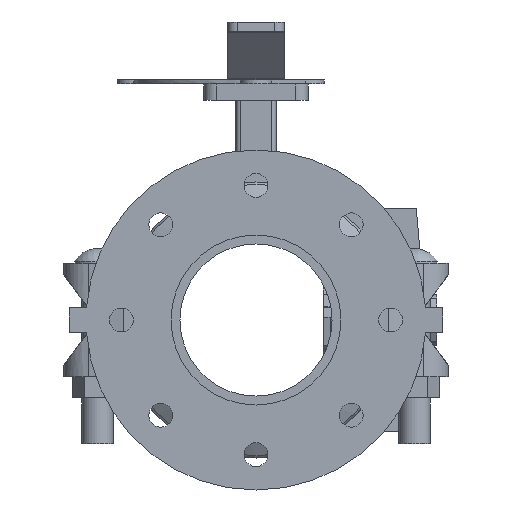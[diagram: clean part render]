
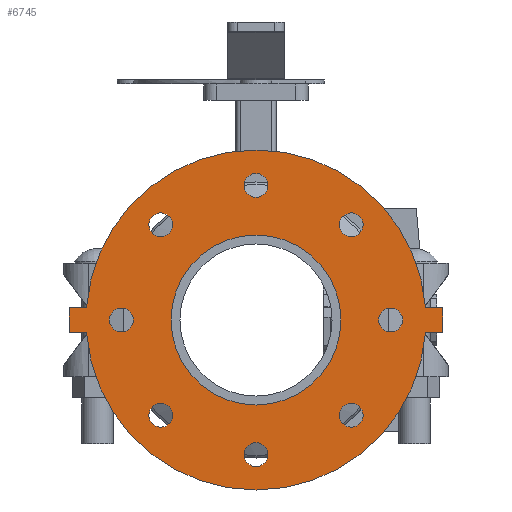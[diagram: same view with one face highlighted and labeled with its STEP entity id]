
A CAD part, front view. The second image highlights one B-rep face of the part: STEP entity #6745.
In plain terms, the highlighted planar face has unit normal (0, -1, 0) as drawn and (0, 0, -1) by its records, which use the part's own axes.
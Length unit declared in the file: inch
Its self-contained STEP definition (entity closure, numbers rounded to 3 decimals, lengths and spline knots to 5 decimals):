
#159=FACE_BOUND('',#837,.T.);
#160=FACE_BOUND('',#838,.T.);
#161=FACE_BOUND('',#839,.T.);
#162=FACE_BOUND('',#840,.T.);
#163=FACE_BOUND('',#841,.T.);
#164=FACE_BOUND('',#842,.T.);
#165=FACE_BOUND('',#843,.T.);
#166=FACE_BOUND('',#844,.T.);
#167=FACE_BOUND('',#845,.T.);
#245=PLANE('',#7311);
#464=FACE_OUTER_BOUND('',#836,.T.);
#836=EDGE_LOOP('',(#4382,#4383,#4384,#4385,#4386,#4387,#4388,#4389));
#837=EDGE_LOOP('',(#4390));
#838=EDGE_LOOP('',(#4391));
#839=EDGE_LOOP('',(#4392));
#840=EDGE_LOOP('',(#4393));
#841=EDGE_LOOP('',(#4394));
#842=EDGE_LOOP('',(#4395));
#843=EDGE_LOOP('',(#4396));
#844=EDGE_LOOP('',(#4397));
#845=EDGE_LOOP('',(#4398));
#1273=LINE('',#10231,#1792);
#1276=LINE('',#10237,#1795);
#1279=LINE('',#10242,#1798);
#1281=LINE('',#10247,#1800);
#1285=LINE('',#10254,#1804);
#1287=LINE('',#10257,#1806);
#1792=VECTOR('',#8143,0.3937);
#1795=VECTOR('',#8148,0.3937);
#1798=VECTOR('',#8153,0.3937);
#1800=VECTOR('',#8157,0.3937);
#1804=VECTOR('',#8163,0.3937);
#1806=VECTOR('',#8167,0.3937);
#2299=CIRCLE('',#7273,0.315);
#2301=CIRCLE('',#7276,0.315);
#2303=CIRCLE('',#7279,0.315);
#2305=CIRCLE('',#7282,0.315);
#2307=CIRCLE('',#7285,0.315);
#2309=CIRCLE('',#7288,0.315);
#2311=CIRCLE('',#7291,0.315);
#2313=CIRCLE('',#7294,0.315);
#2314=CIRCLE('',#7296,2.25);
#2316=CIRCLE('',#7299,4.5);
#2319=CIRCLE('',#7303,4.5);
#2687=VERTEX_POINT('',#10160);
#2689=VERTEX_POINT('',#10166);
#2691=VERTEX_POINT('',#10172);
#2693=VERTEX_POINT('',#10178);
#2695=VERTEX_POINT('',#10184);
#2697=VERTEX_POINT('',#10190);
#2699=VERTEX_POINT('',#10196);
#2701=VERTEX_POINT('',#10202);
#2702=VERTEX_POINT('',#10206);
#2704=VERTEX_POINT('',#10212);
#2706=VERTEX_POINT('',#10215);
#2708=VERTEX_POINT('',#10221);
#2711=VERTEX_POINT('',#10226);
#2712=VERTEX_POINT('',#10230);
#2714=VERTEX_POINT('',#10236);
#2716=VERTEX_POINT('',#10245);
#2717=VERTEX_POINT('',#10246);
#3336=EDGE_CURVE('',#2687,#2687,#2299,.T.);
#3339=EDGE_CURVE('',#2689,#2689,#2301,.T.);
#3342=EDGE_CURVE('',#2691,#2691,#2303,.T.);
#3345=EDGE_CURVE('',#2693,#2693,#2305,.T.);
#3348=EDGE_CURVE('',#2695,#2695,#2307,.T.);
#3351=EDGE_CURVE('',#2697,#2697,#2309,.T.);
#3354=EDGE_CURVE('',#2699,#2699,#2311,.T.);
#3357=EDGE_CURVE('',#2701,#2701,#2313,.T.);
#3358=EDGE_CURVE('',#2702,#2702,#2314,.T.);
#3362=EDGE_CURVE('',#2704,#2706,#2316,.T.);
#3368=EDGE_CURVE('',#2711,#2708,#2319,.T.);
#3369=EDGE_CURVE('',#2706,#2712,#1273,.T.);
#3372=EDGE_CURVE('',#2714,#2711,#1276,.T.);
#3375=EDGE_CURVE('',#2712,#2714,#1279,.T.);
#3377=EDGE_CURVE('',#2716,#2717,#1281,.T.);
#3381=EDGE_CURVE('',#2708,#2716,#1285,.T.);
#3383=EDGE_CURVE('',#2717,#2704,#1287,.T.);
#4382=ORIENTED_EDGE('',*,*,#3383,.F.);
#4383=ORIENTED_EDGE('',*,*,#3377,.F.);
#4384=ORIENTED_EDGE('',*,*,#3381,.F.);
#4385=ORIENTED_EDGE('',*,*,#3368,.F.);
#4386=ORIENTED_EDGE('',*,*,#3372,.F.);
#4387=ORIENTED_EDGE('',*,*,#3375,.F.);
#4388=ORIENTED_EDGE('',*,*,#3369,.F.);
#4389=ORIENTED_EDGE('',*,*,#3362,.F.);
#4390=ORIENTED_EDGE('',*,*,#3336,.T.);
#4391=ORIENTED_EDGE('',*,*,#3339,.T.);
#4392=ORIENTED_EDGE('',*,*,#3342,.T.);
#4393=ORIENTED_EDGE('',*,*,#3345,.T.);
#4394=ORIENTED_EDGE('',*,*,#3348,.T.);
#4395=ORIENTED_EDGE('',*,*,#3351,.T.);
#4396=ORIENTED_EDGE('',*,*,#3354,.T.);
#4397=ORIENTED_EDGE('',*,*,#3357,.T.);
#4398=ORIENTED_EDGE('',*,*,#3358,.T.);
#6745=ADVANCED_FACE('',(#464,#159,#160,#161,#162,#163,#164,#165,#166,#167),
#245,.F.);
#7273=AXIS2_PLACEMENT_3D('',#10162,#8067,#8068);
#7276=AXIS2_PLACEMENT_3D('',#10168,#8074,#8075);
#7279=AXIS2_PLACEMENT_3D('',#10174,#8081,#8082);
#7282=AXIS2_PLACEMENT_3D('',#10180,#8088,#8089);
#7285=AXIS2_PLACEMENT_3D('',#10186,#8095,#8096);
#7288=AXIS2_PLACEMENT_3D('',#10192,#8102,#8103);
#7291=AXIS2_PLACEMENT_3D('',#10198,#8109,#8110);
#7294=AXIS2_PLACEMENT_3D('',#10204,#8116,#8117);
#7296=AXIS2_PLACEMENT_3D('',#10207,#8120,#8121);
#7299=AXIS2_PLACEMENT_3D('',#10216,#8128,#8129);
#7303=AXIS2_PLACEMENT_3D('',#10228,#8139,#8140);
#7311=AXIS2_PLACEMENT_3D('',#10260,#8171,#8172);
#8067=DIRECTION('center_axis',(0.,0.,1.));
#8068=DIRECTION('ref_axis',(-0.707,-0.707,0.));
#8074=DIRECTION('center_axis',(0.,0.,1.));
#8075=DIRECTION('ref_axis',(-1.,0.,0.));
#8081=DIRECTION('center_axis',(0.,0.,1.));
#8082=DIRECTION('ref_axis',(-0.707,0.707,0.));
#8088=DIRECTION('center_axis',(0.,0.,1.));
#8089=DIRECTION('ref_axis',(0.,1.,0.));
#8095=DIRECTION('center_axis',(0.,0.,1.));
#8096=DIRECTION('ref_axis',(0.707,0.707,0.));
#8102=DIRECTION('center_axis',(0.,0.,1.));
#8103=DIRECTION('ref_axis',(1.,0.,0.));
#8109=DIRECTION('center_axis',(0.,0.,1.));
#8110=DIRECTION('ref_axis',(0.707,-0.707,0.));
#8116=DIRECTION('center_axis',(0.,0.,1.));
#8117=DIRECTION('ref_axis',(0.,-1.,0.));
#8120=DIRECTION('center_axis',(0.,0.,1.));
#8121=DIRECTION('ref_axis',(0.,-1.,0.));
#8128=DIRECTION('center_axis',(0.,0.,1.));
#8129=DIRECTION('ref_axis',(0.,1.,0.));
#8139=DIRECTION('center_axis',(0.,0.,1.));
#8140=DIRECTION('ref_axis',(0.,1.,0.));
#8143=DIRECTION('',(0.,-1.,0.));
#8148=DIRECTION('',(0.,1.,0.));
#8153=DIRECTION('',(1.,0.,0.));
#8157=DIRECTION('',(-1.,0.,0.));
#8163=DIRECTION('',(0.,1.,0.));
#8167=DIRECTION('',(0.,-1.,0.));
#8171=DIRECTION('center_axis',(0.,0.,1.));
#8172=DIRECTION('ref_axis',(0.,1.,0.));
#10160=CARTESIAN_POINT('',(-2.2981,2.74357,0.));
#10162=CARTESIAN_POINT('Origin',(-2.52084,2.52084,0.));
#10166=CARTESIAN_POINT('',(0.315,3.565,0.));
#10168=CARTESIAN_POINT('Origin',(0.,3.565,0.));
#10172=CARTESIAN_POINT('',(2.74357,2.2981,0.));
#10174=CARTESIAN_POINT('Origin',(2.52084,2.52084,0.));
#10178=CARTESIAN_POINT('',(3.565,-0.315,0.));
#10180=CARTESIAN_POINT('Origin',(3.565,0.,0.));
#10184=CARTESIAN_POINT('',(2.2981,-2.74357,0.));
#10186=CARTESIAN_POINT('Origin',(2.52084,-2.52084,0.));
#10190=CARTESIAN_POINT('',(-0.315,-3.565,0.));
#10192=CARTESIAN_POINT('Origin',(0.,-3.565,0.));
#10196=CARTESIAN_POINT('',(-2.74357,-2.2981,0.));
#10198=CARTESIAN_POINT('Origin',(-2.52084,-2.52084,0.));
#10202=CARTESIAN_POINT('',(-3.565,0.315,0.));
#10204=CARTESIAN_POINT('Origin',(-3.565,0.,0.));
#10206=CARTESIAN_POINT('',(0.,2.25,0.));
#10207=CARTESIAN_POINT('Origin',(0.,0.,0.));
#10212=CARTESIAN_POINT('',(-0.32,4.48861,0.));
#10215=CARTESIAN_POINT('',(-0.32,-4.48861,0.));
#10216=CARTESIAN_POINT('Origin',(0.,0.,0.));
#10221=CARTESIAN_POINT('',(0.32,4.48861,0.));
#10226=CARTESIAN_POINT('',(0.32,-4.48861,0.));
#10228=CARTESIAN_POINT('Origin',(0.,0.,0.));
#10230=CARTESIAN_POINT('',(-0.32,-4.94,0.));
#10231=CARTESIAN_POINT('',(-0.32,-4.48861,0.));
#10236=CARTESIAN_POINT('',(0.32,-4.94,0.));
#10237=CARTESIAN_POINT('',(0.32,-4.94,0.));
#10242=CARTESIAN_POINT('',(-0.32,-4.94,0.));
#10245=CARTESIAN_POINT('',(0.32,4.94,0.));
#10246=CARTESIAN_POINT('',(-0.32,4.94,0.));
#10247=CARTESIAN_POINT('',(0.32,4.94,0.));
#10254=CARTESIAN_POINT('',(0.32,4.48861,0.));
#10257=CARTESIAN_POINT('',(-0.32,4.94,0.));
#10260=CARTESIAN_POINT('Origin',(0.,4.73391,
0.));
